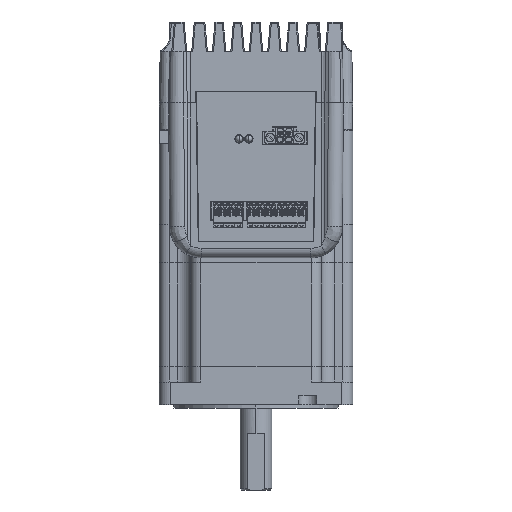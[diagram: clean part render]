
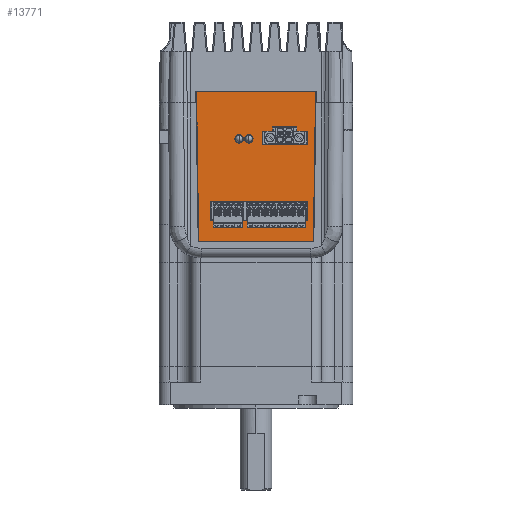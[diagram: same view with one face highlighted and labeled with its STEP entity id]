
A CAD part, left-side view. The second image highlights one B-rep face of the part: STEP entity #13771.
In plain terms, the highlighted planar face has unit normal (-1, 0, 0).
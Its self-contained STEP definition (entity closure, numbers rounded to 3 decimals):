
#13240=DIRECTION('',(0.,-0.014,-1.));
#13241=VECTOR('',#13240,66.526);
#13242=CARTESIAN_POINT('',(-65.403,-25.497,49.297));
#13243=LINE('',#13242,#13241);
#13244=DIRECTION('',(0.,-0.014,1.));
#13245=VECTOR('',#13244,66.526);
#13246=CARTESIAN_POINT('',(-65.403,26.438,-17.222));
#13247=LINE('',#13246,#13245);
#13248=CARTESIAN_POINT('',(-65.403,-7.539,3.678));
#13249=DIRECTION('',(-1.,0.,0.));
#13250=DIRECTION('',(0.,0.,1.));
#13251=AXIS2_PLACEMENT_3D('',#13248,#13249,#13250);
#13253=CARTESIAN_POINT('',(-65.403,-7.539,3.678));
#13254=DIRECTION('',(-1.,0.,0.));
#13255=DIRECTION('',(0.,0.,-1.));
#13256=AXIS2_PLACEMENT_3D('',#13253,#13254,#13255);
#13258=CARTESIAN_POINT('',(-65.403,-3.21,3.678));
#13259=DIRECTION('',(-1.,0.,0.));
#13260=DIRECTION('',(0.,0.,1.));
#13261=AXIS2_PLACEMENT_3D('',#13258,#13259,#13260);
#13263=CARTESIAN_POINT('',(-65.403,-3.21,3.678));
#13264=DIRECTION('',(-1.,0.,0.));
#13265=DIRECTION('',(0.,0.,-1.));
#13266=AXIS2_PLACEMENT_3D('',#13263,#13264,#13265);
#13268=DIRECTION('',(0.,-1.,0.));
#13269=VECTOR('',#13268,4.6);
#13270=CARTESIAN_POINT('',(-65.403,22.738,
0.297));
#13271=LINE('',#13270,#13269);
#13272=DIRECTION('',(0.,0.,-1.));
#13273=VECTOR('',#13272,2.);
#13274=CARTESIAN_POINT('',(-65.403,18.138,
0.297));
#13275=LINE('',#13274,#13273);
#13276=DIRECTION('',(0.,-1.,0.));
#13277=VECTOR('',#13276,10.8);
#13278=CARTESIAN_POINT('',(-65.403,18.138,-1.703));
#13279=LINE('',#13278,#13277);
#13280=DIRECTION('',(0.,0.,1.));
#13281=VECTOR('',#13280,2.);
#13282=CARTESIAN_POINT('',(-65.403,7.338,-1.703));
#13283=LINE('',#13282,#13281);
#13284=DIRECTION('',(0.,-1.,0.));
#13285=VECTOR('',#13284,4.6);
#13286=CARTESIAN_POINT('',(-65.403,7.338,
0.297));
#13287=LINE('',#13286,#13285);
#13288=DIRECTION('',(0.,0.,1.));
#13289=VECTOR('',#13288,6.);
#13290=CARTESIAN_POINT('',(-65.403,2.738,
0.297));
#13291=LINE('',#13290,#13289);
#13292=DIRECTION('',(0.,1.,0.));
#13293=VECTOR('',#13292,20.);
#13294=CARTESIAN_POINT('',(-65.403,2.738,6.297));
#13295=LINE('',#13294,#13293);
#13296=DIRECTION('',(0.,0.,-1.));
#13297=VECTOR('',#13296,6.);
#13298=CARTESIAN_POINT('',(-65.403,22.738,6.297));
#13299=LINE('',#13298,#13297);
#13300=DIRECTION('',(0.,-1.,0.));
#13301=VECTOR('',#13300,43.);
#13302=CARTESIAN_POINT('',(-65.403,22.803,31.397));
#13303=LINE('',#13302,#13301);
#13304=DIRECTION('',(0.,0.,1.));
#13305=VECTOR('',#13304,8.6);
#13306=CARTESIAN_POINT('',(-65.403,-20.197,31.397));
#13307=LINE('',#13306,#13305);
#13308=DIRECTION('',(0.,1.,0.));
#13309=VECTOR('',#13308,43.);
#13310=CARTESIAN_POINT('',(-65.403,-20.197,39.997));
#13311=LINE('',#13310,#13309);
#13312=DIRECTION('',(0.,0.,-1.));
#13313=VECTOR('',#13312,8.6);
#13314=CARTESIAN_POINT('',(-65.403,22.803,39.997));
#13315=LINE('',#13314,#13313);
#13320=DIRECTION('',(0.,-1.,0.));
#13321=VECTOR('',#13320,52.873);
#13322=CARTESIAN_POINT('',(-65.403,26.438,-17.222));
#13323=LINE('',#13322,#13321);
#13340=DIRECTION('',(0.,1.,0.));
#13341=VECTOR('',#13340,50.996);
#13342=CARTESIAN_POINT('',(-65.403,-25.497,49.297));
#13343=LINE('',#13342,#13341);
#13600=CARTESIAN_POINT('',(-65.403,-25.497,49.297));
#13601=CARTESIAN_POINT('',(-65.403,-26.436,-17.222));
#13602=VERTEX_POINT('',#13600);
#13603=VERTEX_POINT('',#13601);
#13604=CARTESIAN_POINT('',(-65.403,26.438,-17.222));
#13605=VERTEX_POINT('',#13604);
#13606=CARTESIAN_POINT('',(-65.403,25.499,49.297));
#13607=VERTEX_POINT('',#13606);
#13608=CARTESIAN_POINT('',(-65.403,-7.539,5.553));
#13609=CARTESIAN_POINT('',(-65.403,-7.539,1.803));
#13610=VERTEX_POINT('',#13608);
#13611=VERTEX_POINT('',#13609);
#13612=CARTESIAN_POINT('',(-65.403,-3.21,5.553));
#13613=CARTESIAN_POINT('',(-65.403,-3.21,1.803));
#13614=VERTEX_POINT('',#13612);
#13615=VERTEX_POINT('',#13613);
#13616=CARTESIAN_POINT('',(-65.403,22.738,
0.297));
#13617=CARTESIAN_POINT('',(-65.403,18.138,
0.297));
#13618=VERTEX_POINT('',#13616);
#13619=VERTEX_POINT('',#13617);
#13620=CARTESIAN_POINT('',(-65.403,18.138,-1.703));
#13621=VERTEX_POINT('',#13620);
#13622=CARTESIAN_POINT('',(-65.403,7.338,-1.703));
#13623=VERTEX_POINT('',#13622);
#13624=CARTESIAN_POINT('',(-65.403,7.338,
0.297));
#13625=VERTEX_POINT('',#13624);
#13626=CARTESIAN_POINT('',(-65.403,2.738,
0.297));
#13627=VERTEX_POINT('',#13626);
#13628=CARTESIAN_POINT('',(-65.403,2.738,6.297));
#13629=VERTEX_POINT('',#13628);
#13630=CARTESIAN_POINT('',(-65.403,22.738,6.297));
#13631=VERTEX_POINT('',#13630);
#13632=CARTESIAN_POINT('',(-65.403,22.803,31.397));
#13633=CARTESIAN_POINT('',(-65.403,-20.197,31.397));
#13634=VERTEX_POINT('',#13632);
#13635=VERTEX_POINT('',#13633);
#13636=CARTESIAN_POINT('',(-65.403,-20.197,39.997));
#13637=VERTEX_POINT('',#13636);
#13638=CARTESIAN_POINT('',(-65.403,22.803,39.997));
#13639=VERTEX_POINT('',#13638);
#13716=CARTESIAN_POINT('',(-65.403,25.696,49.497));
#13717=DIRECTION('',(-1.,0.,0.));
#13718=DIRECTION('',(0.,0.,1.));
#13719=AXIS2_PLACEMENT_3D('',#13716,#13717,#13718);
#13720=PLANE('',#13719);
#13722=ORIENTED_EDGE('',*,*,#13721,.T.);
#13724=ORIENTED_EDGE('',*,*,#13723,.F.);
#13726=ORIENTED_EDGE('',*,*,#13725,.T.);
#13728=ORIENTED_EDGE('',*,*,#13727,.F.);
#13729=EDGE_LOOP('',(#13722,#13724,#13726,#13728));
#13730=FACE_OUTER_BOUND('',#13729,.F.);
#13732=ORIENTED_EDGE('',*,*,#13731,.T.);
#13734=ORIENTED_EDGE('',*,*,#13733,.T.);
#13735=EDGE_LOOP('',(#13732,#13734));
#13736=FACE_BOUND('',#13735,.F.);
#13738=ORIENTED_EDGE('',*,*,#13737,.T.);
#13740=ORIENTED_EDGE('',*,*,#13739,.T.);
#13741=EDGE_LOOP('',(#13738,#13740));
#13742=FACE_BOUND('',#13741,.F.);
#13744=ORIENTED_EDGE('',*,*,#13743,.T.);
#13746=ORIENTED_EDGE('',*,*,#13745,.T.);
#13748=ORIENTED_EDGE('',*,*,#13747,.T.);
#13750=ORIENTED_EDGE('',*,*,#13749,.T.);
#13752=ORIENTED_EDGE('',*,*,#13751,.T.);
#13754=ORIENTED_EDGE('',*,*,#13753,.T.);
#13756=ORIENTED_EDGE('',*,*,#13755,.T.);
#13758=ORIENTED_EDGE('',*,*,#13757,.T.);
#13759=EDGE_LOOP('',(#13744,#13746,#13748,#13750,#13752,#13754,#13756,#13758));
#13760=FACE_BOUND('',#13759,.F.);
#13762=ORIENTED_EDGE('',*,*,#13761,.T.);
#13764=ORIENTED_EDGE('',*,*,#13763,.T.);
#13766=ORIENTED_EDGE('',*,*,#13765,.T.);
#13768=ORIENTED_EDGE('',*,*,#13767,.T.);
#13769=EDGE_LOOP('',(#13762,#13764,#13766,#13768));
#13770=FACE_BOUND('',#13769,.F.);
#13771=ADVANCED_FACE('',(#13730,#13736,#13742,#13760,#13770),#13720,.T.);
#13252=CIRCLE('',#13251,1.875);
#13257=CIRCLE('',#13256,1.875);
#13262=CIRCLE('',#13261,1.875);
#13267=CIRCLE('',#13266,1.875);
#13721=EDGE_CURVE('',#13602,#13603,#13243,.T.);
#13723=EDGE_CURVE('',#13605,#13603,#13323,.T.);
#13725=EDGE_CURVE('',#13605,#13607,#13247,.T.);
#13727=EDGE_CURVE('',#13602,#13607,#13343,.T.);
#13731=EDGE_CURVE('',#13610,#13611,#13252,.T.);
#13733=EDGE_CURVE('',#13611,#13610,#13257,.T.);
#13737=EDGE_CURVE('',#13614,#13615,#13262,.T.);
#13739=EDGE_CURVE('',#13615,#13614,#13267,.T.);
#13743=EDGE_CURVE('',#13618,#13619,#13271,.T.);
#13745=EDGE_CURVE('',#13619,#13621,#13275,.T.);
#13747=EDGE_CURVE('',#13621,#13623,#13279,.T.);
#13749=EDGE_CURVE('',#13623,#13625,#13283,.T.);
#13751=EDGE_CURVE('',#13625,#13627,#13287,.T.);
#13753=EDGE_CURVE('',#13627,#13629,#13291,.T.);
#13755=EDGE_CURVE('',#13629,#13631,#13295,.T.);
#13757=EDGE_CURVE('',#13631,#13618,#13299,.T.);
#13761=EDGE_CURVE('',#13634,#13635,#13303,.T.);
#13763=EDGE_CURVE('',#13635,#13637,#13307,.T.);
#13765=EDGE_CURVE('',#13637,#13639,#13311,.T.);
#13767=EDGE_CURVE('',#13639,#13634,#13315,.T.);
